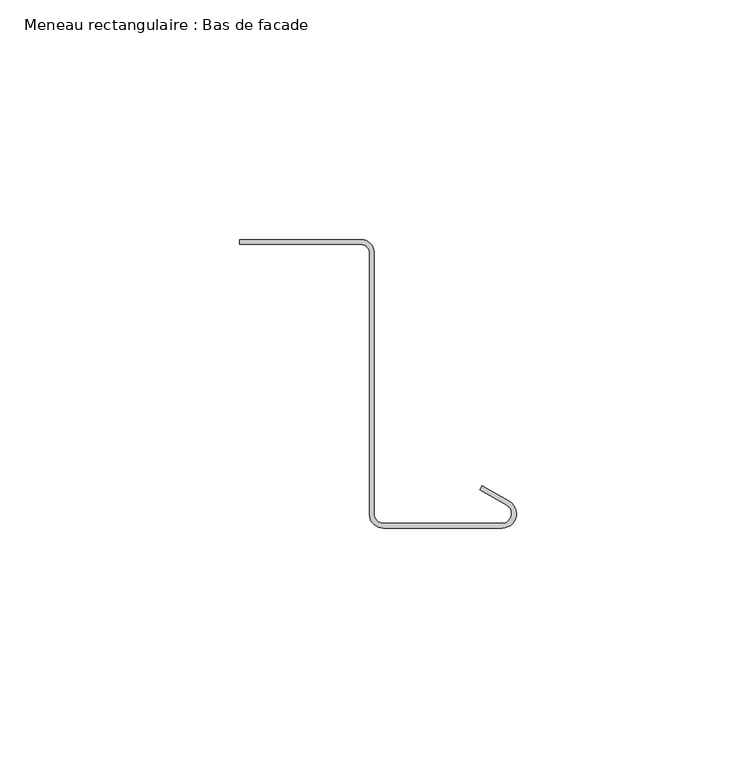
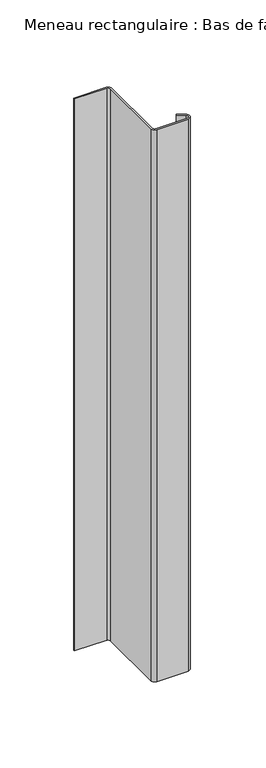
"""IFC4 building model written with IfcOpenShell, lengths in millimetres: member geometry, Meneau rectangulaire : Bas de facade."""

from ifc_helpers import new_model, si_unit, point, frame, frame_2d, origin, place, context, project, spatial, polyline, circle_curve, trimmed, segment, composite_curve, outline, extrude, source, transform, mapped, element, save


def meneau_rectangulaire_bas_de_facade_a66ec44f(model_context):
    return source(origin(), model_context, "Body", "SweptSolid", [
        extrude(outline(composite_curve([segment(trimmed(circle_curve(frame_2d((-32.4584179, 0.2088923)), 2.75), [point((-32.4584179, 2.9588923))], [point((-29.7143802, 0.3898824))], False, "CARTESIAN"), True, "CONTINUOUS"), segment(polyline([(-29.7143802, 0.3898824), (-29.7143802, -54.5495817)]), True, "CONTINUOUS"), segment(trimmed(circle_curve(frame_2d((-27.735368, -54.2605998)), 2.0), [point((-29.7143802, -54.5495817))], [point((-27.735368, -56.2605998))], True, "CARTESIAN"), True, "CONTINUOUS"), segment(polyline([(-27.735368, -56.2605998), (-3.0, -56.2605998)]), True, "CONTINUOUS"), segment(trimmed(circle_curve(frame_2d((-3.0, -54.2605998)), 2.0), [point((-3.0, -56.2605998))], [point((-2.0, -52.528549))], True, "CARTESIAN"), True, "CONTINUOUS"), segment(polyline([(-2.0, -52.528549), (-7.6638061, -49.258549), (-7.1638061, -48.3925235), (-1.5, -51.6625235)]), True, "CONTINUOUS"), segment(trimmed(circle_curve(frame_2d((-3.0, -54.2605998)), 3.0), [point((-1.5, -51.6625235))], [point((-3.0, -57.2605998))], False, "CARTESIAN"), True, "CONTINUOUS"), segment(polyline([(-3.0, -57.2605998), (-27.735368, -57.2605998)]), True, "CONTINUOUS"), segment(trimmed(circle_curve(frame_2d((-27.735368, -54.2605998)), 3.0), [point((-27.735368, -57.2605998))], [point((-30.7239521, -54.522067))], False, "CARTESIAN"), True, "CONTINUOUS"), segment(polyline([(-30.7239521, -54.522067), (-30.7239521, 0.4415475)]), True, "CONTINUOUS"), segment(trimmed(circle_curve(frame_2d((-32.4584179, 0.2088923)), 1.75), [point((-30.7239521, 0.4415475))], [point((-32.4584179, 1.9588923))], True, "CARTESIAN"), True, "CONTINUOUS"), segment(polyline([(-32.4584179, 1.9588923), (-57.8548383, 1.9588923), (-57.8548383, 2.9588923), (-32.4584179, 2.9588923)]), True, "CONTINUOUS")], self_intersect=False)), frame((0.0, 0.0, -457.0), z_axis=(0.0, 0.0, 1.0), x_axis=(1.0, 0.0, 0.0)), (0.0, 0.0, 1.0), 457.0),
    ])


if __name__ == "__main__":
    model = new_model("IFC4")
    model_context = context("Model", 3, world=origin())
    ifc_project = project(units=[si_unit("LENGTHUNIT", "METRE", prefix="MILLI")], contexts=[model_context])
    site = spatial("IfcSite", under=ifc_project)
    building = spatial("IfcBuilding", under=site)
    placement = place(None, origin())
    meneau_rectangulaire_bas_de_facade_shape = meneau_rectangulaire_bas_de_facade_a66ec44f(model_context)
    element("IfcMember", 1, ObjectType="Meneau rectangulaire : Bas de facade", at=placement, inside=building, context=model_context, shape_type="MappedRepresentation", body=[
        mapped(meneau_rectangulaire_bas_de_facade_shape, transform((0.0, 0.0, 0.0), x_axis=(1.0, 0.0, 0.0), y_axis=(0.0, 1.0, 0.0), z_axis=(0.0, 0.0, 1.0))),
    ])
    save(model, "model.ifc")
